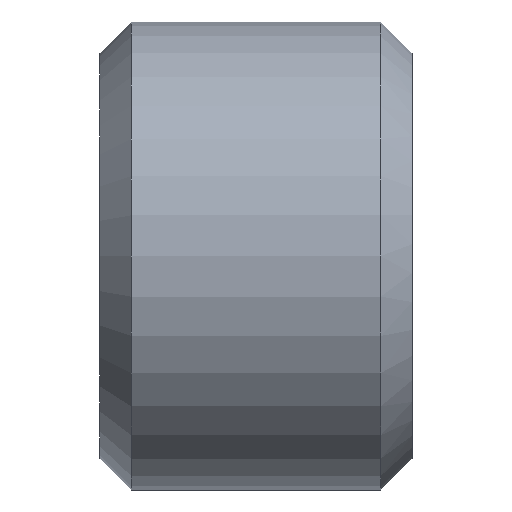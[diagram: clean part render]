
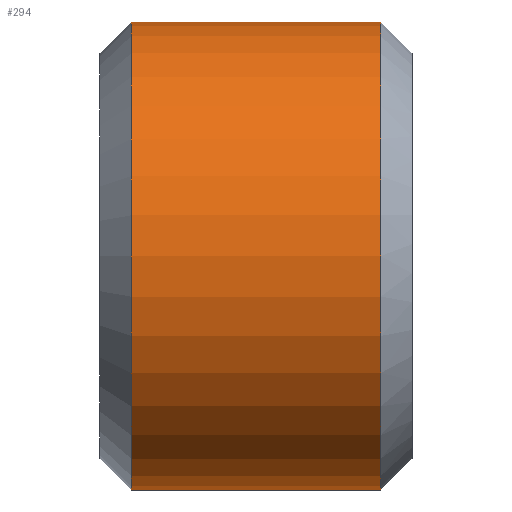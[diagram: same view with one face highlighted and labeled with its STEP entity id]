
A CAD part, left-side view. The second image highlights one B-rep face of the part: STEP entity #294.
In plain terms, the highlighted cylindrical face has radius 15 mm (diameter 30 mm), a partial arc.
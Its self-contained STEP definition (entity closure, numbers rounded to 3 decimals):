
#70=CARTESIAN_POINT('Vertex',(0.,2.,-15.)) ;
#77=CARTESIAN_POINT('Vertex',(0.,2.,15.)) ;
#187=CARTESIAN_POINT('Axis2P3D Location',(0.,2.,0.)) ;
#208=CARTESIAN_POINT('Vertex',(0.,18.,-15.)) ;
#210=CARTESIAN_POINT('Vertex',(0.,18.,15.)) ;
#213=CARTESIAN_POINT('Line Origine',(0.,20.,15.)) ;
#218=CARTESIAN_POINT('Line Origine',(0.,20.,-15.)) ;
#278=CARTESIAN_POINT('Axis2P3D Location',(0.,20.,0.)) ;
#283=CARTESIAN_POINT('Axis2P3D Location',(0.,18.,0.)) ;
#188=DIRECTION('Axis2P3D Direction',(-0.,1.,0.)) ;
#214=DIRECTION('Vector Direction',(0.,-1.,0.)) ;
#219=DIRECTION('Vector Direction',(0.,-1.,0.)) ;
#279=DIRECTION('Axis2P3D Direction',(0.,-1.,-0.)) ;
#280=DIRECTION('Axis2P3D XDirection',(0.,-0.,1.)) ;
#284=DIRECTION('Axis2P3D Direction',(0.,-1.,-0.)) ;
#189=AXIS2_PLACEMENT_3D('Circle Axis2P3D',#187,#188,$) ;
#281=AXIS2_PLACEMENT_3D('Cylinder Axis2P3D',#278,#279,#280) ;
#285=AXIS2_PLACEMENT_3D('Circle Axis2P3D',#283,#284,$) ;
#289=ORIENTED_EDGE('',*,*,#217,.F.) ;
#290=ORIENTED_EDGE('',*,*,#287,.T.) ;
#291=ORIENTED_EDGE('',*,*,#222,.T.) ;
#292=ORIENTED_EDGE('',*,*,#191,.T.) ;
#215=VECTOR('Line Direction',#214,1.) ;
#220=VECTOR('Line Direction',#219,1.) ;
#294=ADVANCED_FACE('Importato1',(#293),#282,.T.) ;
#190=CIRCLE('generated circle',#189,15.) ;
#286=CIRCLE('generated circle',#285,15.) ;
#282=CYLINDRICAL_SURFACE('generated cylinder',#281,15.) ;
#191=EDGE_CURVE('',#71,#78,#190,.T.) ;
#217=EDGE_CURVE('',#211,#78,#216,.T.) ;
#222=EDGE_CURVE('',#209,#71,#221,.T.) ;
#287=EDGE_CURVE('',#211,#209,#286,.T.) ;
#288=EDGE_LOOP('',(#289,#290,#291,#292)) ;
#293=FACE_OUTER_BOUND('',#288,.T.) ;
#216=LINE('Line',#213,#215) ;
#221=LINE('Line',#218,#220) ;
#71=VERTEX_POINT('',#70) ;
#78=VERTEX_POINT('',#77) ;
#209=VERTEX_POINT('',#208) ;
#211=VERTEX_POINT('',#210) ;
